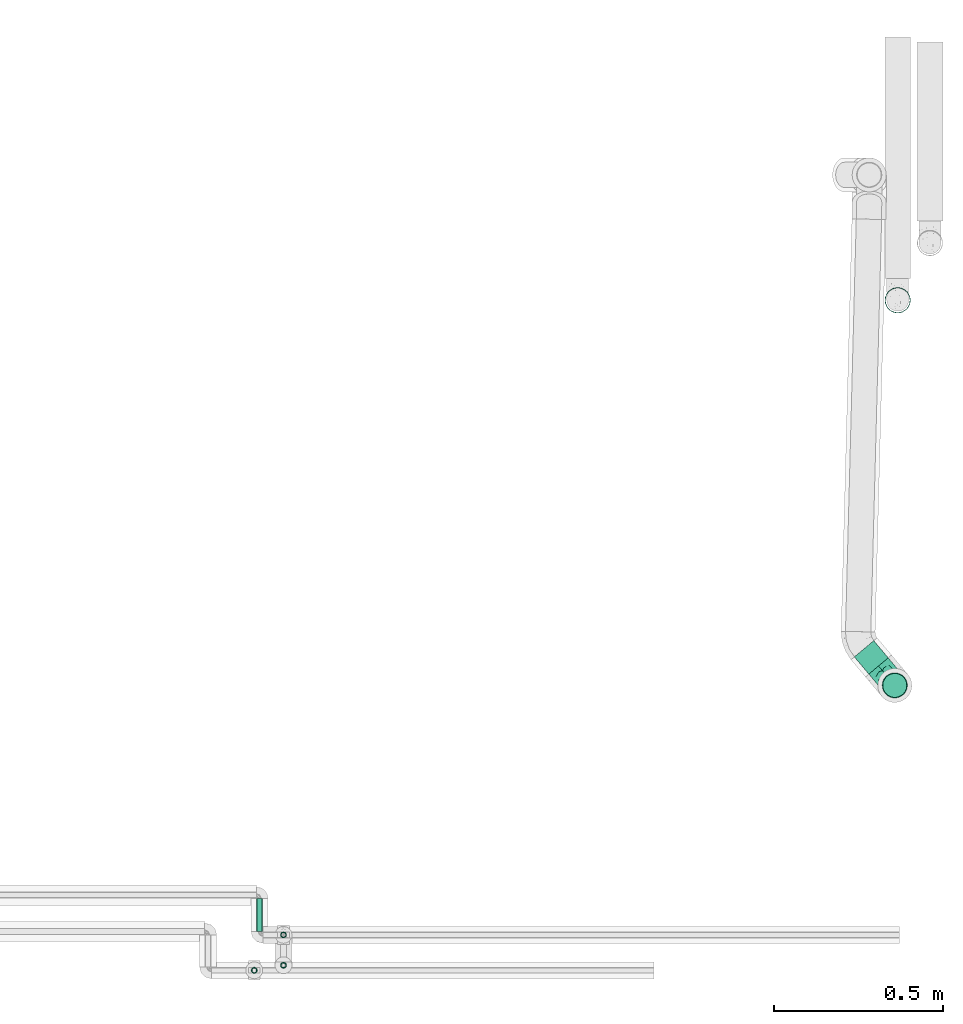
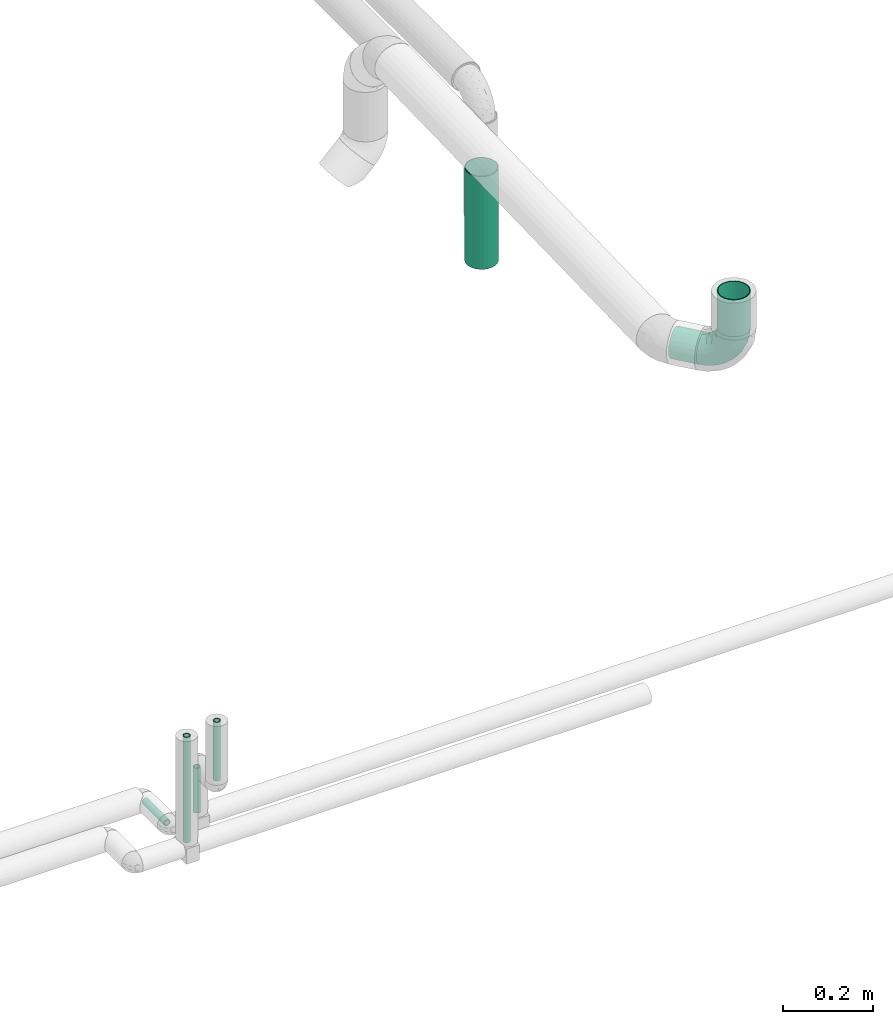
# One storey, part 77 of 156: 7 flow segments, 1 flow fitting.
"""IFC2X3 building model written with IfcOpenShell, lengths in millimetres."""

from ifc_helpers import new_model, entity, si_unit, converted_unit, derived_unit, direction, frame, origin_with_axes, origin_2d_with_axis, place, context, subcontext, project, spatial, hollow_circle, extrude, open_shell, surface_model, source, transform, mapped, type_object, element, save


model = new_model("IFC2X3")

# Units and contexts
model_context = context("Model", 3, precision=0.01, world=frame((0.0, 4.29681676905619e-09, 0.0)), true_north=direction((4.01073788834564e-13, 1.0)))
plan_context = context("Plan", 3, precision=0.01, world=frame((0.0, 4.29681676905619e-09, 0.0)), true_north=direction((4.01073788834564e-13, 1.0)))
body_context = subcontext(model_context, "Body", "Model", "MODEL_VIEW")
ifc_project = project(units=[converted_unit("PLANEANGLEUNIT", "DEGREE", entity("IfcPositiveLengthMeasure", 0.0174532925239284), si_unit("PLANEANGLEUNIT", "RADIAN"), dimensions=[0, 0, 0, 0, 0, 0, 0]), si_unit("AREAUNIT", "SQUARE_METRE"), si_unit("LENGTHUNIT", "METRE", prefix="MILLI"), si_unit("MASSUNIT", "GRAM", prefix="KILO"), si_unit("POWERUNIT", "WATT"), si_unit("PRESSUREUNIT", "PASCAL", prefix="KILO"), si_unit("FORCEUNIT", "NEWTON", prefix="KILO"), si_unit("ELECTRICVOLTAGEUNIT", "VOLT"), si_unit("ELECTRICCURRENTUNIT", "AMPERE"), si_unit("THERMODYNAMICTEMPERATUREUNIT", "DEGREE_CELSIUS"), si_unit("TIMEUNIT", "SECOND"), si_unit("VOLUMEUNIT", "CUBIC_METRE"), derived_unit("LINEARVELOCITYUNIT", [(si_unit("LENGTHUNIT", "METRE"), 1), (si_unit("TIMEUNIT", "SECOND"), -1)]), derived_unit("VOLUMETRICFLOWRATEUNIT", [(si_unit("VOLUMEUNIT", "CUBIC_METRE"), 1), (si_unit("TIMEUNIT", "SECOND"), -1)]), derived_unit("THERMALTRANSMITTANCEUNIT", [(si_unit("POWERUNIT", "WATT"), 1), (si_unit("THERMODYNAMICTEMPERATUREUNIT", "KELVIN"), -1), (si_unit("AREAUNIT", "SQUARE_METRE"), -1)]), derived_unit("SOUNDPRESSUREUNIT", [(si_unit("PRESSUREUNIT", "PASCAL"), 1)])], contexts=[model_context, plan_context])

# Site, building, storey
site_placement = place(None, frame((0.0, -4.29681676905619e-09, 0.0), z_axis=(0.0, 0.0, 1.0), x_axis=(1.0, 0.0, 0.0)))
site = spatial("IfcSite", under=ifc_project, at=site_placement, CompositionType="ELEMENT")
building_placement = place(site_placement, frame((0.0, 4.29681676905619e-09, 0.0), z_axis=(0.0, 0.0, 1.0), x_axis=(1.0, 0.0, 0.0)))
building = spatial("IfcBuilding", under=site, at=building_placement, Name="mc-building", CompositionType="ELEMENT")
storey_placement = place(building_placement, frame((0.0, 0.0, 205200.0), z_axis=(0.0, 0.0, 1.0), x_axis=(1.0, 0.0, 0.0)))
storey = spatial("IfcBuildingStorey", under=building, at=storey_placement, Name="Nivå D + 1,2 m", CompositionType="ELEMENT", Elevation=205200.0)

# Flow fitting
pipe_fitting_type = type_object("IfcPipeFittingType", Name="magi_pipe_elbow_short_001", PredefinedType="BEND")
shared_shape_1 = source(origin_with_axes(), body_context, "Body", "SurfaceModel", [
    surface_model("IfcShellBasedSurfaceModel", [(-75.0, 18.75, -32.47595), (-75.0, 9.70571, -36.22222), (-75.0, 0.0, -37.5), (-75.0, 26.5165, -26.5165), (-75.0, 36.22222, -9.70571), (-75.0, 32.47595, -18.75), (-75.0, -26.5165, -26.5165), (-75.0, -32.47595, -18.75), (-75.0, -18.75, -32.47595), (-75.0, -9.70571, -36.22222), (-75.0, -36.22222, -9.70571), (-75.0, -37.5, 0.0), (-75.0, -36.22222, 9.70571), (-75.0, 32.47595, 18.75), (-75.0, 36.22222, 9.70571), (-75.0, 26.5165, 26.5165), (-75.0, 9.70571, 36.22222), (-75.0, 18.75, 32.47595), (-75.0, -32.47595, 18.75), (-75.0, -26.5165, 26.5165), (-75.0, -18.75, 32.47595), (-75.0, -9.70571, 36.22222), (-75.0, 0.0, 37.5), (-75.0, 37.5, 0.0), (0.0, 75.0, -37.5), (-9.70571, 75.0, -36.22222), (-18.75, 75.0, -32.47595), (-26.5165, 75.0, -26.5165), (-37.5, 75.0, 0.0), (-32.47595, 75.0, -18.75), (26.5165, 75.0, -26.5165), (32.47595, 75.0, -18.75), (9.70571, 75.0, -36.22222), (18.75, 75.0, -32.47595), (37.5, 75.0, 0.0), (36.22222, 75.0, -9.70571), (36.22222, 75.0, 9.70571), (-36.22222, 75.0, -9.70571), (-36.22222, 75.0, 9.70571), (-26.5165, 75.0, 26.5165), (-32.47595, 75.0, 18.75), (-18.75, 75.0, 32.47595), (-9.70571, 75.0, 36.22222), (26.5165, 75.0, 26.5165), (32.47595, 75.0, 18.75), (18.75, 75.0, 32.47595), (0.0, 75.0, 37.5), (9.70571, 75.0, 36.22222), (-50.66195, -32.88873, 11.78572), (-54.99922, -29.13125, 21.04995), (-40.23559, -31.99386, 0.0), (-56.55691, -34.5789, 0.0), (-9.60325, -12.95098, 14.46051), (-2.61009, -10.01741, 7.88638), (2.16617, -2.16616, 15.53807), (-57.288, -4.96773, 36.85866), (-52.51217, 5.74824, 37.43608), (12.81037, 9.15765, 14.08651), (22.89928, 30.51548, 18.6525), (8.7824, 13.60594, 23.93416), (-37.33476, -0.33653, 36.347), (-54.85586, -14.14869, 33.72555), (-29.12471, -8.85823, 31.34411), (-48.10461, -21.423, 27.85772), (-33.59975, -28.74209, 7.71494), (-24.55487, -24.00414, 0.0), (-13.60594, -8.7824, 23.93416), (-6.69857, 6.69857, 30.65943), (-36.65649, 59.85204, 16.29881), (-31.32632, 58.38324, 24.63625), (-13.99807, 64.68502, 35.12545), (-5.13953, 56.09471, 37.40789), (-57.80652, 14.70733, 35.42412), (-9.78855, 25.11652, 36.82116), (-18.63299, 6.87945, 35.01744), (-3.83097, 20.26022, 34.46205), (-64.87994, 22.70936, 30.5559), (-13.033, 36.87746, 37.43272), (-27.77679, 27.77679, 36.58883), (-22.32941, 16.38719, 37.30683), (-59.28624, 39.94303, 8.24496), (-59.87067, 36.65042, 16.29631), (-46.56121, 46.56121, 14.01781), (-58.62128, 31.26084, 24.61005), (21.423, 48.10461, 27.85772), (-38.8913, 49.70952, 21.22461), (14.14869, 54.85586, 33.72555), (29.13125, 54.99922, 21.04995), (32.88873, 50.66195, 11.78572), (-8.87416, -16.01441, 0.0), (-18.2094, -20.62738, 9.716), (4.96773, 57.288, 36.85866), (-41.2078, 16.06301, 36.82891), (-36.79737, 9.18911, 37.484), (24.00414, 24.55487, 0.0), (28.74209, 33.59975, 7.71494), (20.62738, 18.2094, 9.716), (34.5789, 56.5569, 0.0), (-39.86686, 25.44473, 34.6853), (-30.51548, -22.89929, 18.6525), (-27.18733, 48.46895, 31.51768), (-22.90983, 62.88141, 30.71147), (-39.47351, 60.49606, 8.04494), (-46.99814, 49.18552, 6.59975), (17.2765, 30.20783, 25.41576), (8.85823, 29.12471, 31.34411), (-42.52405, 56.25, 0.0), (-34.71543, 39.60057, 30.81378), (-51.63921, 25.45565, 31.57887), (-0.57315, 0.57314, 22.15528), (-21.39907, 38.81887, 36.04898), (-29.87575, 36.30561, 34.12075), (-16.21806, 50.81342, 35.71351), (-39.52887, 41.87958, 26.56295), (-48.16312, 40.29427, 20.91087), (0.33653, 37.33476, 36.347), (-30.0679, -16.43719, 26.14736), (10.22617, 2.72351, 7.47716), (31.99386, 40.23559, 0.0), (16.01441, 8.87416, 0.0), (-56.25, 42.52405, 0.0), (3.57013, -3.57013, 0.0), (-55.29924, 32.29556, -24.97819), (-59.83636, 36.66159, -16.30091), (-30.63566, -9.46389, -31.46168), (-32.56288, -0.46777, -35.66689), (-15.06702, -0.62752, -30.72736), (-59.36538, 4.74163, -37.37795), (-54.70677, -33.57101, -12.22532), (-47.11778, -27.80921, -20.31132), (-35.78225, -28.12088, -12.58113), (-54.55876, 15.30781, -35.56016), (-41.31209, 8.8649, -37.4919), (-32.29557, 55.29924, -24.97819), (-60.70982, 39.34858, -8.20557), (-23.53711, 58.87183, -31.02168), (-15.30781, 54.55876, -35.56016), (-47.71661, 47.71661, -8.95342), (22.40392, 54.25272, -28.31307), (12.94164, 47.49005, -33.35163), (14.78364, 63.33368, -34.12928), (-7.30605, -13.19114, -9.87585), (-7.41233, -9.72412, -17.08835), (4.03435, -3.18292, -9.89479), (-21.88198, 20.2773, -37.47871), (-35.54999, 22.18897, -36.38385), (-58.87183, 23.53711, -31.02168), (-63.13479, -29.8521, -21.78761), (-36.48245, 42.59931, -28.24512), (-34.65769, 34.65768, -32.92632), (-45.83467, 31.6775, -29.79181), (3.27021, -0.68924, -16.07244), (-54.25272, -22.40392, -28.31307), (27.80921, 47.11778, -20.31132), (33.57101, 54.70677, -12.22532), (28.12088, 35.78224, -12.58113), (-63.33368, -14.78364, -34.12928), (4.72829, 55.2495, -36.81435), (-23.70708, -18.25272, -20.4572), (-27.99946, -15.29719, -26.23299), (-13.59403, -9.26621, -23.44624), (-40.92572, -17.1227, -29.44432), (-47.49005, -12.94164, -33.35163), (-55.2495, -4.72829, -36.81435), (-28.10029, 46.13387, -31.76622), (-39.34858, 60.70982, -8.20557), (-4.74163, 59.36537, -37.37795), (-13.2384, 13.2384, -35.41008), (0.46777, 32.56288, -35.66689), (1.57868, 17.61531, -31.27328), (-36.6616, 59.83635, -16.30091), (-45.03866, 45.03866, -18.48368), (29.8521, 63.13479, -21.78761), (21.73246, 30.12864, -20.13951), (12.08848, 14.21656, -20.79992), (15.29719, 27.99946, -26.23299), (7.75053, 32.01418, -32.75993), (-8.8649, 41.31209, -37.4919), (-45.59181, 24.13361, -33.799), (-22.36035, 36.49252, -36.20246), (-0.35549, 0.35549, -21.72869), (-17.3698, -20.96637, -6.45086), (19.22892, 18.63119, -13.96617), (20.96637, 17.3698, -6.45086), (4.41782, 11.43015, -26.30466), (-18.63119, -19.22892, -13.96617)], [open_shell([[[0, 1, 2]], [[3, 0, 2]], [[4, 5, 3]], [[6, 3, 2]], [[4, 3, 7]], [[8, 6, 9]], [[6, 2, 9]], [[10, 11, 7]], [[3, 6, 7]], [[7, 11, 12]], [[12, 4, 7]], [[13, 14, 15]], [[16, 17, 15]], [[18, 19, 12]], [[20, 12, 19]], [[21, 22, 20]], [[12, 20, 22]], [[4, 12, 23]], [[24, 25, 26]], [[24, 26, 27]], [[28, 27, 29]], [[24, 27, 30]], [[28, 31, 27]], [[32, 30, 33]], [[32, 24, 30]], [[31, 34, 35]], [[31, 30, 27]], [[36, 34, 31]], [[37, 28, 29]], [[38, 36, 28]], [[39, 38, 40]], [[39, 41, 42]], [[38, 39, 36]], [[42, 36, 39]], [[36, 43, 44]], [[43, 36, 45]], [[45, 46, 47]], [[46, 45, 36]], [[36, 42, 46]], [[28, 36, 31]], [[48, 49, 18]], [[50, 48, 51]], [[52, 53, 54]], [[12, 48, 18]], [[12, 51, 48]], [[22, 55, 56]], [[18, 49, 19]], [[57, 58, 59]], [[60, 61, 62]], [[63, 20, 19]], [[63, 61, 20]], [[64, 50, 65]], [[62, 66, 67]], [[40, 68, 69]], [[42, 70, 71]], [[16, 72, 17]], [[73, 74, 75]], [[17, 76, 15]], [[21, 55, 22]], [[77, 78, 79]], [[80, 81, 82]], [[13, 83, 81]], [[84, 43, 45]], [[23, 14, 80]], [[14, 13, 81]], [[68, 85, 69]], [[83, 13, 15]], [[22, 56, 16]], [[45, 86, 84]], [[15, 76, 83]], [[87, 58, 88]], [[40, 38, 68]], [[89, 90, 65]], [[46, 91, 47]], [[65, 90, 64]], [[46, 42, 71]], [[92, 93, 79]], [[88, 36, 44]], [[44, 43, 87]], [[87, 88, 44]], [[94, 95, 96]], [[88, 97, 36]], [[98, 72, 92]], [[49, 99, 63]], [[69, 100, 101]], [[82, 102, 103]], [[104, 105, 59]], [[106, 102, 28]], [[98, 107, 108]], [[102, 82, 68]], [[86, 45, 47]], [[69, 39, 40]], [[109, 54, 57]], [[110, 100, 111]], [[20, 61, 21]], [[101, 41, 39]], [[70, 42, 41]], [[112, 77, 71]], [[84, 86, 105]], [[96, 95, 58]], [[100, 69, 113]], [[72, 16, 56]], [[108, 113, 83]], [[81, 114, 82]], [[112, 110, 77]], [[91, 71, 115]], [[62, 61, 63]], [[55, 61, 60]], [[116, 99, 66]], [[74, 62, 67]], [[91, 86, 47]], [[105, 86, 115]], [[75, 105, 115]], [[109, 67, 66]], [[59, 105, 67]], [[48, 64, 99]], [[99, 49, 48]], [[63, 19, 49]], [[43, 84, 87]], [[58, 87, 84]], [[92, 72, 56]], [[76, 72, 108]], [[102, 68, 38]], [[82, 114, 85]], [[98, 111, 107]], [[112, 70, 101]], [[114, 83, 113]], [[82, 103, 80]], [[92, 79, 78]], [[115, 71, 77]], [[74, 79, 60]], [[77, 79, 73]], [[71, 91, 46]], [[86, 91, 115]], [[61, 55, 21]], [[56, 55, 60]], [[57, 54, 117]], [[104, 59, 58]], [[116, 66, 62]], [[52, 99, 90]], [[12, 11, 51]], [[97, 88, 118]], [[97, 34, 36]], [[53, 90, 89]], [[90, 53, 52]], [[94, 96, 119]], [[88, 95, 118]], [[117, 54, 53]], [[92, 56, 93]], [[98, 92, 78]], [[111, 98, 78]], [[72, 98, 108]], [[110, 111, 78]], [[107, 111, 100]], [[28, 102, 38]], [[102, 106, 103]], [[106, 120, 103]], [[103, 120, 80]], [[23, 80, 120]], [[14, 81, 80]], [[56, 60, 93]], [[60, 79, 93]], [[117, 121, 119]], [[121, 117, 53]], [[53, 89, 121]], [[119, 96, 117]], [[117, 96, 57]], [[77, 110, 78]], [[100, 110, 112]], [[83, 114, 81]], [[85, 114, 113]], [[69, 85, 113]], [[82, 85, 68]], [[109, 52, 54]], [[99, 52, 66]], [[69, 101, 39]], [[112, 101, 100]], [[100, 113, 107]], [[108, 107, 113]], [[62, 74, 60]], [[75, 74, 67]], [[105, 75, 67]], [[73, 75, 115]], [[77, 73, 115]], [[74, 73, 79]], [[99, 64, 90]], [[50, 64, 48]], [[118, 95, 94]], [[58, 95, 88]], [[58, 57, 96]], [[109, 57, 59]], [[72, 76, 17]], [[83, 76, 108]], [[101, 70, 41]], [[71, 70, 112]], [[58, 84, 104]], [[105, 104, 84]], [[67, 109, 59]], [[52, 109, 66]], [[62, 63, 116]], [[99, 116, 63]], [[122, 5, 123]], [[124, 125, 126]], [[2, 1, 127]], [[128, 129, 130]], [[127, 131, 132]], [[29, 27, 133]], [[120, 134, 23]], [[135, 26, 136]], [[123, 134, 137]], [[138, 139, 140]], [[122, 3, 5]], [[141, 142, 143]], [[144, 132, 145]], [[131, 0, 146]], [[128, 7, 147]], [[148, 149, 150]], [[128, 51, 10]], [[142, 151, 143]], [[152, 6, 8]], [[153, 154, 155]], [[156, 152, 8]], [[32, 157, 24]], [[158, 159, 160]], [[147, 7, 6]], [[129, 152, 161]], [[156, 8, 9]], [[162, 163, 125]], [[154, 31, 35]], [[120, 106, 137]], [[149, 148, 164]], [[28, 37, 165]], [[163, 9, 2]], [[5, 4, 123]], [[25, 166, 136]], [[167, 168, 169]], [[170, 133, 171]], [[25, 24, 166]], [[33, 30, 138]], [[157, 32, 140]], [[37, 29, 170]], [[30, 31, 172]], [[26, 135, 27]], [[132, 131, 145]], [[32, 33, 140]], [[173, 174, 175]], [[169, 168, 176]], [[25, 136, 26]], [[175, 138, 173]], [[168, 177, 157]], [[163, 162, 156]], [[153, 172, 154]], [[7, 128, 10]], [[154, 97, 118]], [[131, 178, 145]], [[0, 3, 146]], [[175, 139, 138]], [[155, 118, 94]], [[131, 1, 0]], [[146, 178, 131]], [[170, 137, 165]], [[149, 179, 145]], [[171, 133, 148]], [[160, 180, 142]], [[65, 181, 89]], [[170, 165, 37]], [[137, 171, 123]], [[172, 138, 30]], [[138, 153, 173]], [[168, 157, 139]], [[166, 157, 177]], [[176, 175, 169]], [[168, 167, 144]], [[154, 35, 97]], [[155, 182, 173]], [[162, 124, 161]], [[147, 152, 129]], [[127, 163, 2]], [[132, 144, 125]], [[132, 125, 163]], [[125, 167, 126]], [[129, 158, 130]], [[35, 34, 97]], [[143, 182, 183]], [[169, 126, 167]], [[3, 122, 146]], [[178, 150, 149]], [[136, 179, 164]], [[133, 27, 135]], [[123, 4, 134]], [[122, 123, 171]], [[133, 170, 29]], [[137, 170, 171]], [[184, 175, 174]], [[180, 160, 126]], [[126, 169, 184]], [[126, 159, 124]], [[51, 128, 50]], [[51, 11, 10]], [[131, 127, 1]], [[163, 127, 132]], [[157, 166, 24]], [[136, 166, 177]], [[164, 179, 149]], [[144, 167, 125]], [[179, 144, 145]], [[168, 144, 177]], [[136, 177, 179]], [[144, 179, 177]], [[141, 121, 89]], [[89, 181, 141]], [[154, 118, 155]], [[183, 155, 94]], [[143, 183, 119]], [[119, 183, 94]], [[155, 183, 182]], [[181, 130, 185]], [[50, 128, 130]], [[130, 181, 65]], [[50, 130, 65]], [[141, 181, 185]], [[142, 141, 185]], [[143, 121, 141]], [[158, 160, 142]], [[142, 180, 151]], [[158, 142, 185]], [[126, 160, 159]], [[130, 158, 185]], [[129, 159, 158]], [[23, 134, 4]], [[120, 137, 134]], [[137, 106, 165]], [[28, 165, 106]], [[174, 151, 180]], [[182, 143, 151]], [[150, 146, 122]], [[149, 145, 178]], [[146, 150, 178]], [[122, 171, 148]], [[148, 150, 122]], [[164, 133, 135]], [[133, 164, 148]], [[164, 135, 136]], [[138, 140, 33]], [[157, 140, 139]], [[154, 172, 31]], [[138, 172, 153]], [[163, 156, 9]], [[152, 156, 162]], [[152, 147, 6]], [[128, 147, 129]], [[155, 173, 153]], [[174, 173, 182]], [[151, 174, 182]], [[174, 180, 184]], [[126, 184, 180]], [[175, 184, 169]], [[168, 139, 176]], [[175, 176, 139]], [[161, 124, 159]], [[125, 124, 162]], [[129, 161, 159]], [[162, 161, 152]], [[143, 119, 121]], [[14, 23, 15]], [[23, 16, 15]], [[22, 16, 23]], [[22, 23, 12]]])]),
])
flow_fitting_placement = place(storey_placement, frame((348037.84566, 459657.15345, 4377.41381999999), z_axis=(0.766044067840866, 0.642788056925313, 0.0), x_axis=(0.0, 0.0, -1.0)))
element("IfcFlowFitting", 1, at=flow_fitting_placement, inside=storey, type_object=pipe_fitting_type, Name="magi_pipe_elbow_short_001", context=body_context, shape_type="MappedRepresentation", body=[
    mapped(shared_shape_1, transform((0.0, 0.0, 0.0), scale=1.0)),
])

# Flow segments
pipe_segment_type_1 = type_object("IfcPipeSegmentType", Name="MA", PredefinedType="RIGIDSEGMENT")
shared_shape_2 = source(origin_with_axes(), body_context, "Body", "SweptSolid", [
    extrude(hollow_circle(Radius=37.5, WallThickness=2.0, at=origin_2d_with_axis()), frame((0.0, 0.0, 0.0), z_axis=(1.0, 0.0, 0.0), x_axis=(0.0, 1.0, 0.0)), (0.0, 0.0, 1.0), 100.0),
])
flow_segment_1_placement = place(storey_placement, frame((348037.84566, 459657.15345, 4552.61382), z_axis=(0.642788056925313, -0.766044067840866, 0.0), x_axis=(0.0, 0.0, -1.0)))
element("IfcFlowSegment", 2, at=flow_segment_1_placement, inside=storey, type_object=pipe_segment_type_1, Name="MA", context=body_context, shape_type="MappedRepresentation", body=[
    mapped(shared_shape_2, transform((0.0, 0.0, 0.0), scale=1.0)),
])
pipe_segment_type_2 = type_object("IfcPipeSegmentType", Name="Stålrør normaltykke", PredefinedType="RIGIDSEGMENT")
shared_shape_3 = source(origin_with_axes(), body_context, "Body", "SweptSolid", [
    extrude(hollow_circle(Radius=38.0, WallThickness=2.0, at=origin_2d_with_axis()), frame((0.0, 0.0, 0.0), z_axis=(1.0, 0.0, 0.0), x_axis=(0.0, 1.0, 0.0)), (0.0, 0.0, 1.0), 252.8),
])
flow_segment_2_placement = place(storey_placement, frame((348046.3978, 460797.29788, 3941.57445000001), z_axis=(0.0, 1.0, 0.0), x_axis=(0.0, 0.0, 1.0)))
element("IfcFlowSegment", 3, at=flow_segment_2_placement, inside=storey, type_object=pipe_segment_type_2, Name="Stålrør normaltykke", context=body_context, shape_type="MappedRepresentation", body=[
    mapped(shared_shape_3, transform((0.0, 0.0, 0.0), scale=1.0)),
])
shared_shape_4 = source(origin_with_axes(), body_context, "Body", "SweptSolid", [
    extrude(hollow_circle(Radius=37.5, WallThickness=2.0, at=origin_2d_with_axis()), frame((0.0, 0.0, 0.0), z_axis=(1.0, 0.0, 0.0), x_axis=(0.0, 1.0, 0.0)), (0.0, 0.0, 1.0), 66.6),
])
flow_segment_3_placement = place(storey_placement, frame((347989.63658, 459714.60679, 4377.41381999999), z_axis=(-8.4999999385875e-05, 8.4999999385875e-05, 0.999999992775), x_axis=(-0.642788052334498, 0.766044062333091, -0.000119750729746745)))
element("IfcFlowSegment", 4, at=flow_segment_3_placement, inside=storey, type_object=pipe_segment_type_1, Name="MA", context=body_context, shape_type="MappedRepresentation", body=[
    mapped(shared_shape_4, transform((0.0, 0.0, 0.0), scale=1.0)),
])
shared_shape_5 = source(origin_with_axes(), body_context, "Body", "SweptSolid", [
    extrude(hollow_circle(Radius=8.6, WallThickness=2.0, at=origin_2d_with_axis()), frame((0.0, 0.0, 0.0), z_axis=(1.0, 0.0, 0.0), x_axis=(0.0, 1.0, 0.0)), (0.0, 0.0, 1.0), 97.7),
])
flow_segment_4_placement = place(storey_placement, frame((346157.5, 459026.28638, 4203.32044000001), z_axis=(0.0, 0.0, 1.0), x_axis=(0.0, -1.0, 0.0)))
element("IfcFlowSegment", 5, at=flow_segment_4_placement, inside=storey, type_object=pipe_segment_type_2, Name="Stålrør normaltykke", context=body_context, shape_type="MappedRepresentation", body=[
    mapped(shared_shape_5, transform((0.0, 0.0, 0.0), scale=1.0)),
])
shared_shape_6 = source(origin_with_axes(), body_context, "Body", "SweptSolid", [
    extrude(hollow_circle(Radius=8.6, WallThickness=2.0, at=origin_2d_with_axis()), frame((0.0, 0.0, 0.0), z_axis=(1.0, 0.0, 0.0), x_axis=(0.0, 1.0, 0.0)), (0.0, 0.0, 1.0), 122.1),
])
flow_segment_5_placement = place(storey_placement, frame((346228.06078, 458918.61963, 4216.22044), z_axis=(-1.0, 0.0, 0.0), x_axis=(0.0, 0.0, 1.0)))
element("IfcFlowSegment", 6, at=flow_segment_5_placement, inside=storey, type_object=pipe_segment_type_2, Name="Stålrør normaltykke", context=body_context, shape_type="MappedRepresentation", body=[
    mapped(shared_shape_6, transform((0.0, 0.0, 0.0), scale=1.0)),
])
shared_shape_7 = source(origin_with_axes(), body_context, "Body", "SweptSolid", [
    extrude(hollow_circle(Radius=8.6, WallThickness=2.0, at=origin_2d_with_axis()), frame((0.0, 0.0, 0.0), z_axis=(1.0, 0.0, 0.0), x_axis=(0.0, 1.0, 0.0)), (0.0, 0.0, 1.0), 160.0),
])
flow_segment_6_placement = place(storey_placement, frame((346228.06078, 458828.61963, 4358.32044000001), z_axis=(-1.0, 0.0, 0.0), x_axis=(0.0, 0.0, 1.0)))
element("IfcFlowSegment", 7, at=flow_segment_6_placement, inside=storey, type_object=pipe_segment_type_2, Name="Stålrør normaltykke", context=body_context, shape_type="MappedRepresentation", body=[
    mapped(shared_shape_7, transform((0.0, 0.0, 0.0), scale=1.0)),
])
shared_shape_8 = source(origin_with_axes(), body_context, "Body", "SweptSolid", [
    extrude(hollow_circle(Radius=8.6, WallThickness=2.0, at=origin_2d_with_axis()), frame((0.0, 0.0, 0.0), z_axis=(1.0, 0.0, 0.0), x_axis=(0.0, 1.0, 0.0)), (0.0, 0.0, 1.0), 287.1),
])
flow_segment_7_placement = place(storey_placement, frame((346141.60779, 458813.61963, 4229.58835000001), z_axis=(-1.0, 0.0, 0.0), x_axis=(0.0, 0.0, 1.0)))
element("IfcFlowSegment", 8, at=flow_segment_7_placement, inside=storey, type_object=pipe_segment_type_2, Name="Stålrør normaltykke", context=body_context, shape_type="MappedRepresentation", body=[
    mapped(shared_shape_8, transform((0.0, 0.0, 0.0), scale=1.0)),
])

save(model, "model.ifc")
